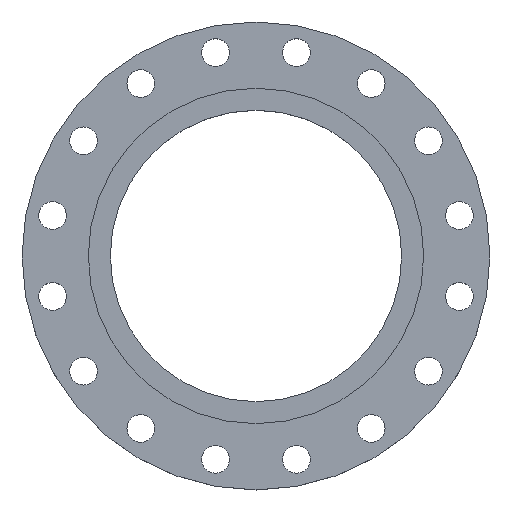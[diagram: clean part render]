
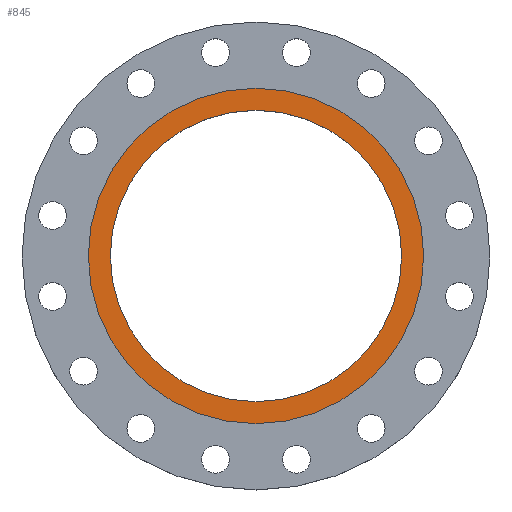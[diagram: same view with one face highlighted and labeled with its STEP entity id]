
A CAD part, top view. The second image highlights one B-rep face of the part: STEP entity #845.
In plain terms, the highlighted planar face has unit normal (0, 0, 1).
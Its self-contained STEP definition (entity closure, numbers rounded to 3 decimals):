
#105 = CARTESIAN_POINT ( 'NONE',  ( 236.5, 0., 0. ) ) ;
#125 = CARTESIAN_POINT ( 'NONE',  ( -205.5, 0., 0. ) ) ;
#244 = AXIS2_PLACEMENT_3D ( 'NONE', #515, #1008, #1394 ) ;
#276 = CARTESIAN_POINT ( 'NONE',  ( 0., 0., 0. ) ) ;
#283 = CIRCLE ( 'NONE', #244, 205.5 ) ;
#314 = EDGE_LOOP ( 'NONE', ( #653, #656 ) ) ;
#317 = AXIS2_PLACEMENT_3D ( 'NONE', #387, #856, #1315 ) ;
#362 = VERTEX_POINT ( 'NONE', #125 ) ;
#387 = CARTESIAN_POINT ( 'NONE',  ( 0., 0., 0. ) ) ;
#392 = VERTEX_POINT ( 'NONE', #105 ) ;
#399 = CARTESIAN_POINT ( 'NONE',  ( 205.5, 0., 0. ) ) ;
#424 = FACE_BOUND ( 'NONE', #314, .T. ) ;
#429 = CARTESIAN_POINT ( 'NONE',  ( 0., 0., 0. ) ) ;
#501 = CIRCLE ( 'NONE', #317, 236.5 ) ;
#515 = CARTESIAN_POINT ( 'NONE',  ( 0., 0., 0. ) ) ;
#592 = EDGE_LOOP ( 'NONE', ( #658, #659 ) ) ;
#600 = DIRECTION ( 'NONE',  ( 0., 0., -1. ) ) ;
#653 = ORIENTED_EDGE ( 'NONE', *, *, #1221, .T. ) ;
#656 = ORIENTED_EDGE ( 'NONE', *, *, #1305, .T. ) ;
#658 = ORIENTED_EDGE ( 'NONE', *, *, #1276, .F. ) ;
#659 = ORIENTED_EDGE ( 'NONE', *, *, #872, .F. ) ;
#747 = CIRCLE ( 'NONE', #823, 205.5 ) ;
#774 = DIRECTION ( 'NONE',  ( 0., 0., 1. ) ) ;
#823 = AXIS2_PLACEMENT_3D ( 'NONE', #1475, #600, #1099 ) ;
#837 = CARTESIAN_POINT ( 'NONE',  ( -236.5, 0., 0. ) ) ;
#845 = ADVANCED_FACE ( 'NONE', ( #424, #909 ), #1331, .T. ) ;
#856 = DIRECTION ( 'NONE',  ( 0., 0., -1. ) ) ;
#872 = EDGE_CURVE ( 'NONE', #392, #979, #1010, .T. ) ;
#909 = FACE_OUTER_BOUND ( 'NONE', #592, .T. ) ;
#924 = DIRECTION ( 'NONE',  ( 0., 0., -1. ) ) ;
#979 = VERTEX_POINT ( 'NONE', #837 ) ;
#1008 = DIRECTION ( 'NONE',  ( 0., 0., -1. ) ) ;
#1010 = CIRCLE ( 'NONE', #1236, 236.5 ) ;
#1032 = VERTEX_POINT ( 'NONE', #399 ) ;
#1099 = DIRECTION ( 'NONE',  ( -1., 0., 0. ) ) ;
#1221 = EDGE_CURVE ( 'NONE', #362, #1032, #747, .T. ) ;
#1236 = AXIS2_PLACEMENT_3D ( 'NONE', #429, #924, #1335 ) ;
#1245 = AXIS2_PLACEMENT_3D ( 'NONE', #276, #774, #1268 ) ;
#1268 = DIRECTION ( 'NONE',  ( 1., 0., 0. ) ) ;
#1276 = EDGE_CURVE ( 'NONE', #979, #392, #501, .T. ) ;
#1305 = EDGE_CURVE ( 'NONE', #1032, #362, #283, .T. ) ;
#1315 = DIRECTION ( 'NONE',  ( -1., 0., 0. ) ) ;
#1331 = PLANE ( 'NONE',  #1245 ) ;
#1335 = DIRECTION ( 'NONE',  ( -1., 0., 0. ) ) ;
#1394 = DIRECTION ( 'NONE',  ( -1., 0., 0. ) ) ;
#1475 = CARTESIAN_POINT ( 'NONE',  ( 0., 0., 0. ) ) ;
